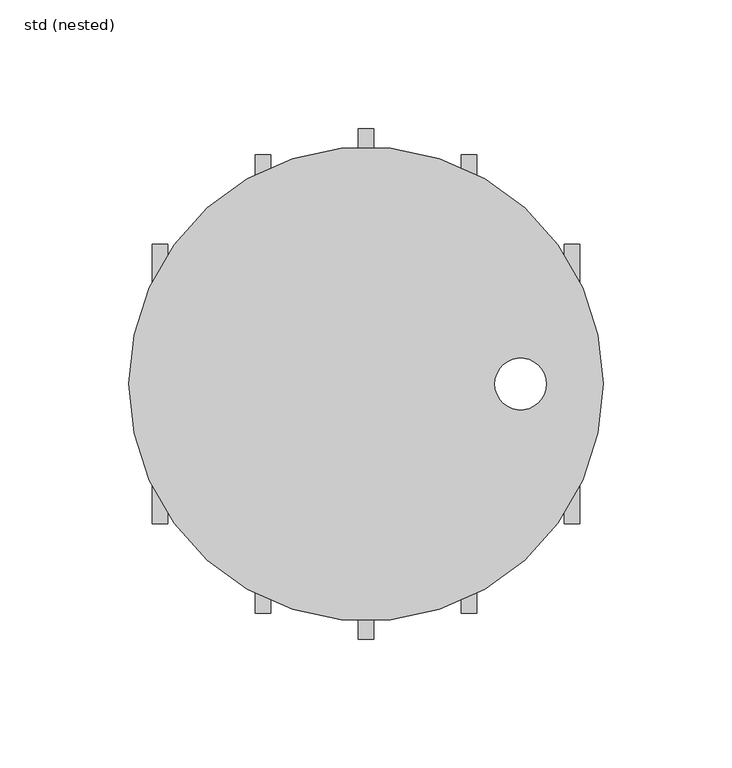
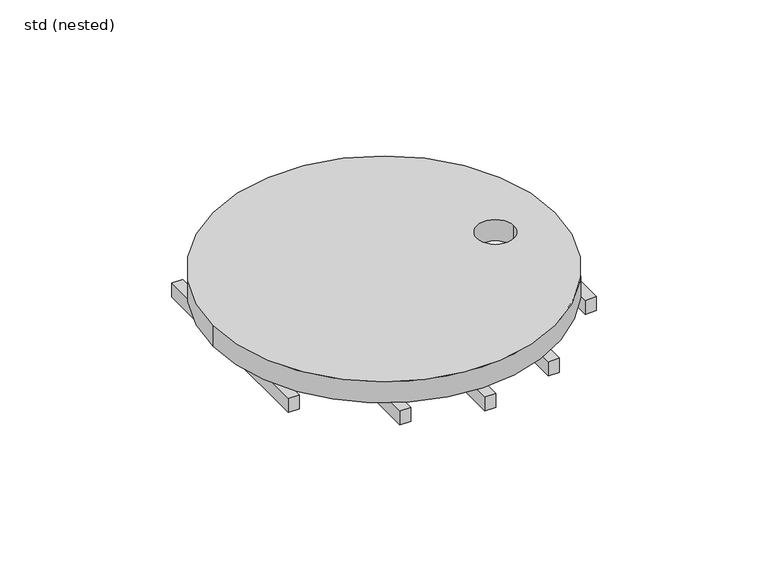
"""IFC4 building model written with IfcOpenShell, lengths in millimetres: sanitary terminal geometry, ZZZ_do not use_PF_ST_UN_round grating for hygienic gully_ACO : std (nested)."""

from ifc_helpers import new_model, si_unit, point, frame, frame_2d, origin, origin_2d, place, context, project, spatial, polyline, circle_curve, trimmed, segment, composite_curve, outline, extrude, source, transform, mapped, element, save


def std_nested_bb84bd4d(model_context):
    return source(origin(), model_context, "Body", "SweptSolid", [
        extrude(outline(composite_curve([segment(trimmed(circle_curve(origin_2d(), 92.0), [point((-92.0, 0.0))], [point((92.0, 0.0))], False, "CARTESIAN"), True, "CONTINUOUS"), segment(trimmed(circle_curve(origin_2d(), 92.0), [point((92.0, 0.0))], [point((-92.0, 0.0))], False, "CARTESIAN"), True, "CONTINUOUS")], self_intersect=False), holes=[composite_curve([segment(trimmed(circle_curve(frame_2d((60.0, 0.0)), 10.0), [point((50.0, 0.0))], [point((70.0, 0.0))], True, "CARTESIAN"), True, "CONTINUOUS"), segment(trimmed(circle_curve(frame_2d((60.0, 0.0)), 10.0), [point((70.0, 0.0))], [point((50.0, 0.0))], True, "CARTESIAN"), True, "CONTINUOUS")], self_intersect=False)]), frame((0.0, 0.0, -12.0), z_axis=(0.0, 0.0, 1.0), x_axis=(1.0, 0.0, 0.0)), (0.0, 0.0, 1.0), 12.0),
        extrude(outline(polyline([(3.0, 99.0), (3.0, -99.0), (-3.0, -99.0), (-3.0, 99.0), (3.0, 99.0)])), frame((0.0, 0.0, -20.0), z_axis=(0.0, 0.0, 1.0), x_axis=(1.0, 0.0, 0.0)), (0.0, 0.0, 1.0), 8.0),
        extrude(outline(polyline([(-37.0, 89.0), (-37.0, -89.0), (-43.0, -89.0), (-43.0, 89.0), (-37.0, 89.0)])), frame((0.0, 0.0, -20.0), z_axis=(0.0, 0.0, 1.0), x_axis=(1.0, 0.0, 0.0)), (0.0, 0.0, 1.0), 8.0),
        extrude(outline(polyline([(-77.0, 54.25), (-77.0, -54.25), (-83.0, -54.25), (-83.0, 54.25), (-77.0, 54.25)])), frame((0.0, 0.0, -20.0), z_axis=(0.0, 0.0, 1.0), x_axis=(1.0, 0.0, 0.0)), (0.0, 0.0, 1.0), 8.0),
        extrude(outline(polyline([(43.019669, 89.0), (43.019669, -89.0), (37.019669, -89.0), (37.019669, 89.0), (43.019669, 89.0)])), frame((0.0, 0.0, -20.0), z_axis=(0.0, 0.0, 1.0), x_axis=(1.0, 0.0, 0.0)), (0.0, 0.0, 1.0), 8.0),
        extrude(outline(polyline([(83.019669, 54.25), (83.019669, -54.25), (77.019669, -54.25), (77.019669, 54.25), (83.019669, 54.25)])), frame((0.0, 0.0, -20.0), z_axis=(0.0, 0.0, 1.0), x_axis=(1.0, 0.0, 0.0)), (0.0, 0.0, 1.0), 8.0),
    ])


if __name__ == "__main__":
    model = new_model("IFC4")
    model_context = context("Model", 3, world=origin())
    ifc_project = project(units=[si_unit("LENGTHUNIT", "METRE", prefix="MILLI")], contexts=[model_context])
    site = spatial("IfcSite", under=ifc_project)
    building = spatial("IfcBuilding", under=site)
    placement = place(None, origin())
    std_nested_shape = std_nested_bb84bd4d(model_context)
    element("IfcSanitaryTerminal", 1, ObjectType="ZZZ_do not use_PF_ST_UN_round grating for hygienic gully_ACO : std (nested)", at=placement, inside=building, context=model_context, shape_type="MappedRepresentation", body=[
        mapped(std_nested_shape, transform((0.0, 0.0, 0.0), x_axis=(1.0, 0.0, 0.0), y_axis=(0.0, 1.0, 0.0), z_axis=(0.0, 0.0, 1.0))),
    ])
    save(model, "model.ifc")
